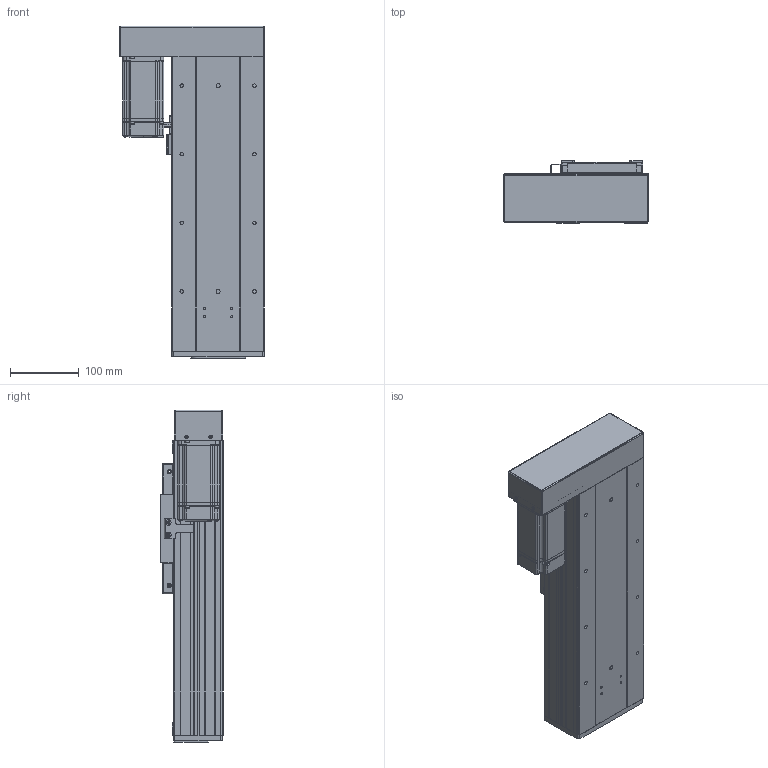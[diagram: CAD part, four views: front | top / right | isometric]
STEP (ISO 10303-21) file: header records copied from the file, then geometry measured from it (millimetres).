
FILE_DESCRIPTION (( 'STEP AP203' ), '1' );
FILE_NAME ('RY140F-L2020-300-LK.SLDASM_150.step', '2021-03-02T08:36:52', ( '盈信电脑' ), ( '东莞市道滘镇水果街19号' ), 'SwSTEP 2.0', 'SolidWorks 2012', '' );
FILE_SCHEMA (( 'CONFIG_CONTROL_DESIGN' ));
Length unit declared in the file: millimetre
Products named in the file (19): RY140F-左右折电机安装板(400W M5); RY140F-L2020-300-LK.SLDASM_150; RY140F-转折折电机座（7001）; RY140F-酘衵殏萇儂欶(400W); 侐源滅袉蝶; RY140F-672覜茼んえ; 覜茼ん672; RY140F-詩湍揤え; 15; 侂狟400W侜督萇儂; RY140F-后盖板(铝件）; RY140F-詩湍幗謫粣; RY100F-詩湍揤踡謫; RY140F-滅鳥奻裔; RY140F-直连型材铝滑块(16丝杆); RY140F-直连型材铝滑块连接座; RY140F-300-LK倰第奻裔啣_150; RY140F-300-LK蛌殏詩湍_150; RY140F-300-LK倰第菁釱_150
Assembly tree (23 placements, depth 3):
  RY140F-L2020-300-LK.SLDASM_150
    RY140F-300-LK倰第菁釱_150
    RY140F-300-LK倰第奻裔啣_150  x2
    RY140F-300-LK蛌殏詩湍_150
    RY140F-直连型材铝滑块连接座
    RY140F-滅鳥奻裔
    RY140F-詩湍幗謫粣
    RY100F-詩湍揤踡謫
    RY140F-直连型材铝滑块(16丝杆)
    RY140F-后盖板(铝件）
    侂狟400W侜督萇儂
      15
    覜茼ん672
    RY140F-672覜茼んえ
    RY140F-詩湍揤え  x2
    侐源滅袉蝶  x4
    RY140F-转折折电机座（7001）
    RY140F-左右折电机安装板(400W M5)
    RY140F-酘衵殏萇儂欶(400W)
Bounding box: 211 x 91 x 484 mm (x, y, z)
Volume: 2468857.2 mm3; surface area: 865114.4 mm2
Topology: 22 solids, 22 shells, 1949 faces, 5325 edges, 3398 vertices
Faces by surface type: cylinder 936, plane 789, cone 194, bspline 26, torus 4
Entity records: 61779 total; most frequent: CARTESIAN_POINT 13183, DIRECTION 9822, ORIENTED_EDGE 9602, EDGE_CURVE 4801, AXIS2_PLACEMENT_3D 3501, VERTEX_POINT 3138, LINE 2820, VECTOR 2820
